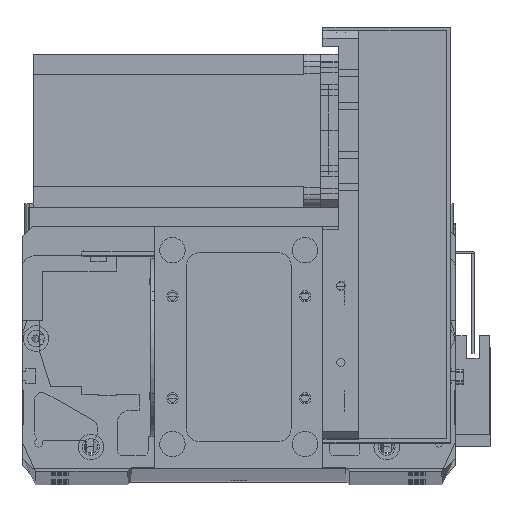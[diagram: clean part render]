
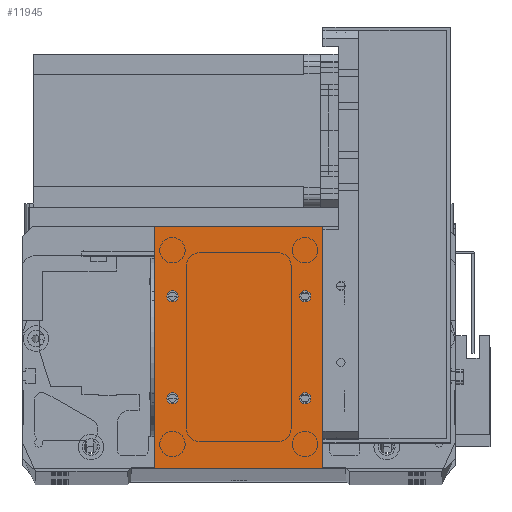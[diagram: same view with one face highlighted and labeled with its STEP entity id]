
A CAD part, top view. The second image highlights one B-rep face of the part: STEP entity #11945.
In plain terms, the highlighted planar face has unit normal (0, 0, 1).
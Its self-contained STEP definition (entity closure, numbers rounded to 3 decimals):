
#357 = DIRECTION ( 'NONE',  ( 0., 0., 1. ) ) ;
#410 = CARTESIAN_POINT ( 'NONE',  ( 59., 67.5, 2. ) ) ;
#439 = AXIS2_PLACEMENT_3D ( 'NONE', #11485, #30294, #14188 ) ;
#509 = CIRCLE ( 'NONE', #9230, 2.25 ) ;
#691 = AXIS2_PLACEMENT_3D ( 'NONE', #28429, #12336, #31148 ) ;
#938 = ORIENTED_EDGE ( 'NONE', *, *, #18831, .F. ) ;
#1142 = ORIENTED_EDGE ( 'NONE', *, *, #27790, .F. ) ;
#1571 = VERTEX_POINT ( 'NONE', #4720 ) ;
#1946 = CARTESIAN_POINT ( 'NONE',  ( 4.75, 67.5, 2. ) ) ;
#2241 = VERTEX_POINT ( 'NONE', #12743 ) ;
#2827 = EDGE_CURVE ( 'NONE', #12956, #9168, #24602, .T. ) ;
#3083 = DIRECTION ( 'NONE',  ( 1., 0., 0. ) ) ;
#3477 = CARTESIAN_POINT ( 'NONE',  ( 7., 27.5, 2. ) ) ;
#3485 = CARTESIAN_POINT ( 'NONE',  ( 61.25, 67.5, 2. ) ) ;
#3815 = FACE_OUTER_BOUND ( 'NONE', #12444, .T. ) ;
#4603 = CARTESIAN_POINT ( 'NONE',  ( 0., 0., 2. ) ) ;
#4720 = CARTESIAN_POINT ( 'NONE',  ( 66., 0., 2. ) ) ;
#5140 = AXIS2_PLACEMENT_3D ( 'NONE', #21735, #10891, #24426 ) ;
#5301 = VERTEX_POINT ( 'NONE', #22798 ) ;
#5706 = DIRECTION ( 'NONE',  ( 0., 0., 1. ) ) ;
#5976 = DIRECTION ( 'NONE',  ( 0., 0., 1. ) ) ;
#5980 = CIRCLE ( 'NONE', #15870, 2.25 ) ;
#6010 = CARTESIAN_POINT ( 'NONE',  ( 9.25, 27.5, 2. ) ) ;
#6163 = DIRECTION ( 'NONE',  ( 1., 0., 0. ) ) ;
#6168 = VECTOR ( 'NONE', #24207, 1000. ) ;
#6309 = EDGE_CURVE ( 'NONE', #20684, #2241, #17538, .T. ) ;
#6966 = ORIENTED_EDGE ( 'NONE', *, *, #30740, .T. ) ;
#7259 = CARTESIAN_POINT ( 'NONE',  ( 66., 0., 2. ) ) ;
#8105 = CARTESIAN_POINT ( 'NONE',  ( 0., 0., 2. ) ) ;
#8120 = AXIS2_PLACEMENT_3D ( 'NONE', #22100, #5976, #24782 ) ;
#9168 = VERTEX_POINT ( 'NONE', #22602 ) ;
#9230 = AXIS2_PLACEMENT_3D ( 'NONE', #16390, #357, #19107 ) ;
#9506 = VECTOR ( 'NONE', #23607, 1000. ) ;
#9972 = DIRECTION ( 'NONE',  ( 0., 1., 0. ) ) ;
#10044 = EDGE_CURVE ( 'NONE', #28722, #31545, #5980, .T. ) ;
#10831 = AXIS2_PLACEMENT_3D ( 'NONE', #410, #19169, #3083 ) ;
#10884 = EDGE_CURVE ( 'NONE', #29312, #23934, #30802, .T. ) ;
#10891 = DIRECTION ( 'NONE',  ( 0., 0., -1. ) ) ;
#11485 = CARTESIAN_POINT ( 'NONE',  ( 7., 67.5, 2. ) ) ;
#11775 = FACE_BOUND ( 'NONE', #28220, .T. ) ;
#11945 = ADVANCED_FACE ( 'NONE', ( #11775, #25227, #18944, #18103, #3815 ), #19019, .F. ) ;
#12097 = DIRECTION ( 'NONE',  ( 0., 0., 1. ) ) ;
#12336 = DIRECTION ( 'NONE',  ( 0., 0., 1. ) ) ;
#12444 = EDGE_LOOP ( 'NONE', ( #18568, #25325, #16938, #6966 ) ) ;
#12743 = CARTESIAN_POINT ( 'NONE',  ( 56.75, 67.5, 2. ) ) ;
#12956 = VERTEX_POINT ( 'NONE', #1946 ) ;
#13072 = VERTEX_POINT ( 'NONE', #23889 ) ;
#14136 = LINE ( 'NONE', #8105, #6168 ) ;
#14188 = DIRECTION ( 'NONE',  ( 1., 0., 0. ) ) ;
#14351 = EDGE_CURVE ( 'NONE', #16561, #13072, #33530, .T. ) ;
#14873 = CARTESIAN_POINT ( 'NONE',  ( 0., 95., 2. ) ) ;
#15870 = AXIS2_PLACEMENT_3D ( 'NONE', #28200, #12097, #30891 ) ;
#16390 = CARTESIAN_POINT ( 'NONE',  ( 59., 67.5, 2. ) ) ;
#16561 = VERTEX_POINT ( 'NONE', #6010 ) ;
#16644 = VECTOR ( 'NONE', #9972, 1000. ) ;
#16938 = ORIENTED_EDGE ( 'NONE', *, *, #33414, .T. ) ;
#17538 = CIRCLE ( 'NONE', #10831, 2.25 ) ;
#17806 = EDGE_LOOP ( 'NONE', ( #21922, #938 ) ) ;
#18103 = FACE_BOUND ( 'NONE', #24526, .T. ) ;
#18568 = ORIENTED_EDGE ( 'NONE', *, *, #10884, .T. ) ;
#18831 = EDGE_CURVE ( 'NONE', #2241, #20684, #509, .T. ) ;
#18944 = FACE_BOUND ( 'NONE', #30361, .T. ) ;
#18951 = AXIS2_PLACEMENT_3D ( 'NONE', #21816, #5706, #24507 ) ;
#19019 = PLANE ( 'NONE',  #5140 ) ;
#19107 = DIRECTION ( 'NONE',  ( 1., 0., 0. ) ) ;
#19169 = DIRECTION ( 'NONE',  ( 0., 0., 1. ) ) ;
#19723 = CARTESIAN_POINT ( 'NONE',  ( 0., 0., 2. ) ) ;
#20458 = CARTESIAN_POINT ( 'NONE',  ( 61.25, 27.5, 2. ) ) ;
#20684 = VERTEX_POINT ( 'NONE', #3485 ) ;
#20890 = CARTESIAN_POINT ( 'NONE',  ( 0., 95., 2. ) ) ;
#21735 = CARTESIAN_POINT ( 'NONE',  ( 0., 0., 2. ) ) ;
#21816 = CARTESIAN_POINT ( 'NONE',  ( 59., 27.5, 2. ) ) ;
#21922 = ORIENTED_EDGE ( 'NONE', *, *, #6309, .F. ) ;
#22100 = CARTESIAN_POINT ( 'NONE',  ( 7., 27.5, 2. ) ) ;
#22286 = DIRECTION ( 'NONE',  ( 0., 0., 1. ) ) ;
#22602 = CARTESIAN_POINT ( 'NONE',  ( 9.25, 67.5, 2. ) ) ;
#22798 = CARTESIAN_POINT ( 'NONE',  ( 66., 95., 2. ) ) ;
#23607 = DIRECTION ( 'NONE',  ( -1., 0., 0. ) ) ;
#23835 = LINE ( 'NONE', #20890, #9506 ) ;
#23889 = CARTESIAN_POINT ( 'NONE',  ( 4.75, 27.5, 2. ) ) ;
#23934 = VERTEX_POINT ( 'NONE', #19723 ) ;
#24207 = DIRECTION ( 'NONE',  ( 1., 0., 0. ) ) ;
#24304 = AXIS2_PLACEMENT_3D ( 'NONE', #3477, #22286, #6163 ) ;
#24426 = DIRECTION ( 'NONE',  ( -1., 0., 0. ) ) ;
#24507 = DIRECTION ( 'NONE',  ( 1., 0., 0. ) ) ;
#24526 = EDGE_LOOP ( 'NONE', ( #29620, #34734 ) ) ;
#24602 = CIRCLE ( 'NONE', #691, 2.25 ) ;
#24680 = CARTESIAN_POINT ( 'NONE',  ( 56.75, 27.5, 2. ) ) ;
#24782 = DIRECTION ( 'NONE',  ( 1., 0., 0. ) ) ;
#25227 = FACE_BOUND ( 'NONE', #17806, .T. ) ;
#25325 = ORIENTED_EDGE ( 'NONE', *, *, #33059, .T. ) ;
#25605 = EDGE_CURVE ( 'NONE', #13072, #16561, #34607, .T. ) ;
#27182 = ORIENTED_EDGE ( 'NONE', *, *, #2827, .F. ) ;
#27790 = EDGE_CURVE ( 'NONE', #31545, #28722, #28579, .T. ) ;
#28200 = CARTESIAN_POINT ( 'NONE',  ( 59., 27.5, 2. ) ) ;
#28220 = EDGE_LOOP ( 'NONE', ( #32006, #27182 ) ) ;
#28429 = CARTESIAN_POINT ( 'NONE',  ( 7., 67.5, 2. ) ) ;
#28579 = CIRCLE ( 'NONE', #18951, 2.25 ) ;
#28722 = VERTEX_POINT ( 'NONE', #20458 ) ;
#28845 = CIRCLE ( 'NONE', #439, 2.25 ) ;
#29038 = VECTOR ( 'NONE', #31378, 1000. ) ;
#29312 = VERTEX_POINT ( 'NONE', #14873 ) ;
#29620 = ORIENTED_EDGE ( 'NONE', *, *, #14351, .F. ) ;
#30294 = DIRECTION ( 'NONE',  ( 0., 0., 1. ) ) ;
#30361 = EDGE_LOOP ( 'NONE', ( #33198, #1142 ) ) ;
#30740 = EDGE_CURVE ( 'NONE', #5301, #29312, #23835, .T. ) ;
#30802 = LINE ( 'NONE', #4603, #29038 ) ;
#30891 = DIRECTION ( 'NONE',  ( 1., 0., 0. ) ) ;
#31148 = DIRECTION ( 'NONE',  ( 1., 0., 0. ) ) ;
#31378 = DIRECTION ( 'NONE',  ( 0., -1., 0. ) ) ;
#31545 = VERTEX_POINT ( 'NONE', #24680 ) ;
#31787 = LINE ( 'NONE', #7259, #16644 ) ;
#32006 = ORIENTED_EDGE ( 'NONE', *, *, #33249, .F. ) ;
#33059 = EDGE_CURVE ( 'NONE', #23934, #1571, #14136, .T. ) ;
#33198 = ORIENTED_EDGE ( 'NONE', *, *, #10044, .F. ) ;
#33249 = EDGE_CURVE ( 'NONE', #9168, #12956, #28845, .T. ) ;
#33414 = EDGE_CURVE ( 'NONE', #1571, #5301, #31787, .T. ) ;
#33530 = CIRCLE ( 'NONE', #8120, 2.25 ) ;
#34607 = CIRCLE ( 'NONE', #24304, 2.25 ) ;
#34734 = ORIENTED_EDGE ( 'NONE', *, *, #25605, .F. ) ;
